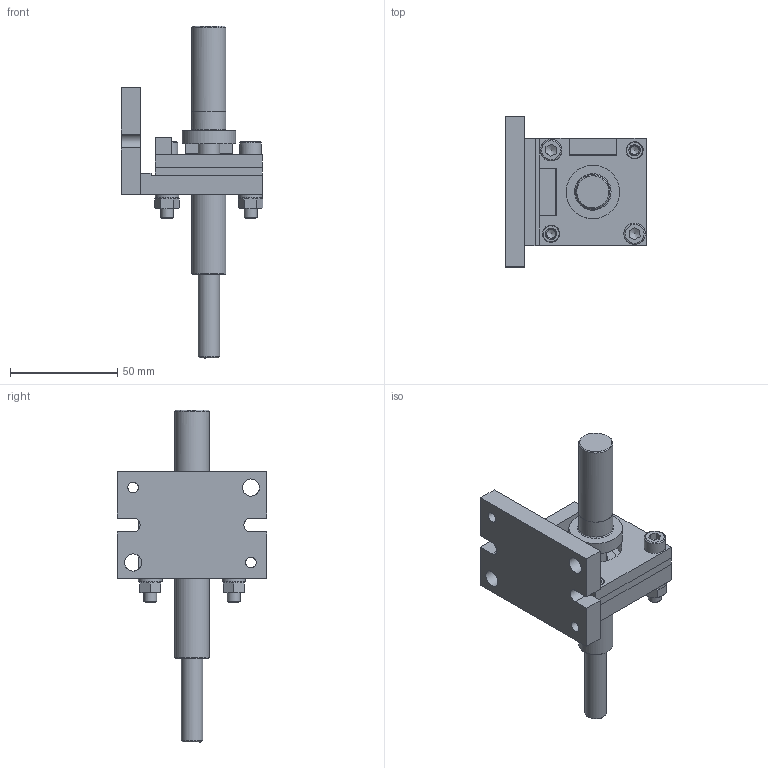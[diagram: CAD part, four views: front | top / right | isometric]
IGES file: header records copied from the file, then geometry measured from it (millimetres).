
Global section: file name: 07.00-SF-SQ; native system: Autodesk Inventor 2014; preprocessor: unknown; author: AP.to; date: 20150402.113009; units: millimetre
Bounding box: 66.27 x 70 x 155 mm (x, y, z)
Volume: 98591.6 mm3; surface area: 47736 mm2
Topology: 15 solids, 15 shells, 203 faces, 515 edges, 352 vertices
Faces by surface type: bspline 203
